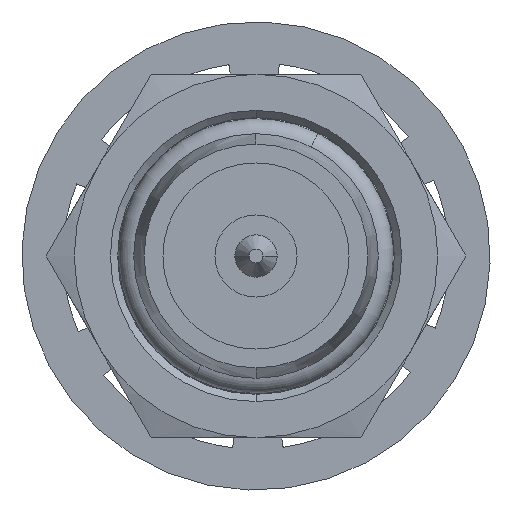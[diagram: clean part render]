
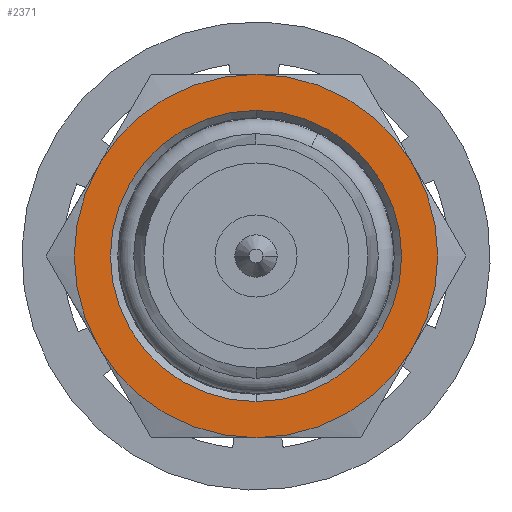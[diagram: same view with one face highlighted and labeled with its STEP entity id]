
A CAD part, left-side view. The second image highlights one B-rep face of the part: STEP entity #2371.
In plain terms, the highlighted planar face has unit normal (-1, 0, 0).
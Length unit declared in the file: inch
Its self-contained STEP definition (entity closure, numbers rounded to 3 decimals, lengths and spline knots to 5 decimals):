
#2 = CARTESIAN_POINT ( 'NONE',  ( 0.242, 0., 0. ) ) ;
#63 = EDGE_CURVE ( 'NONE', #2235, #6115, #4043, .T. ) ;
#86 = CARTESIAN_POINT ( 'NONE',  ( 0.242, 0., 0.156 ) ) ;
#108 = DIRECTION ( 'NONE',  ( 0., 0., 1. ) ) ;
#259 = VERTEX_POINT ( 'NONE', #5818 ) ;
#370 = CIRCLE ( 'NONE', #4271, 0.125 ) ;
#517 = DIRECTION ( 'NONE',  ( 0., 0., 1. ) ) ;
#533 = CARTESIAN_POINT ( 'NONE',  ( 0.242, 0., 0. ) ) ;
#587 = CARTESIAN_POINT ( 'NONE',  ( 0.242, -0.1351, -0.078 ) ) ;
#975 = AXIS2_PLACEMENT_3D ( 'NONE', #533, #4054, #1026 ) ;
#1026 = DIRECTION ( 'NONE',  ( 0., 0., 1. ) ) ;
#1036 = CIRCLE ( 'NONE', #975, 0.156 ) ;
#1208 = CARTESIAN_POINT ( 'NONE',  ( 0.242, 0., 0. ) ) ;
#1416 = CARTESIAN_POINT ( 'NONE',  ( 0.242, -0.18013, 0. ) ) ;
#1526 = ORIENTED_EDGE ( 'NONE', *, *, #5245, .T. ) ;
#1625 = CIRCLE ( 'NONE', #3148, 0.156 ) ;
#1704 = DIRECTION ( 'NONE',  ( 0., 0., 1. ) ) ;
#1720 = CIRCLE ( 'NONE', #3846, 0.156 ) ;
#1842 = VERTEX_POINT ( 'NONE', #2873 ) ;
#1922 = DIRECTION ( 'NONE',  ( 0., 0., 1. ) ) ;
#2235 = VERTEX_POINT ( 'NONE', #2428 ) ;
#2246 = CARTESIAN_POINT ( 'NONE',  ( 0.242, 0., -0.125 ) ) ;
#2371 = ADVANCED_FACE ( 'NONE', ( #4318, #5659 ), #2419, .T. ) ;
#2397 = CIRCLE ( 'NONE', #4557, 0.156 ) ;
#2419 = PLANE ( 'NONE',  #4488 ) ;
#2428 = CARTESIAN_POINT ( 'NONE',  ( 0.242, -0.1351, 0.078 ) ) ;
#2456 = DIRECTION ( 'NONE',  ( -1., 0., 0. ) ) ;
#2516 = CARTESIAN_POINT ( 'NONE',  ( 0.242, 0., 0. ) ) ;
#2518 = EDGE_CURVE ( 'NONE', #4303, #3636, #1036, .T. ) ;
#2636 = DIRECTION ( 'NONE',  ( -1., 0., 0. ) ) ;
#2855 = AXIS2_PLACEMENT_3D ( 'NONE', #5880, #2858, #6359 ) ;
#2858 = DIRECTION ( 'NONE',  ( -1., 0., 0. ) ) ;
#2873 = CARTESIAN_POINT ( 'NONE',  ( 0.242, 0.1351, -0.078 ) ) ;
#2996 = EDGE_CURVE ( 'NONE', #3345, #3925, #3207, .T. ) ;
#3108 = DIRECTION ( 'NONE',  ( -1., 0., 0. ) ) ;
#3148 = AXIS2_PLACEMENT_3D ( 'NONE', #6098, #3108, #108 ) ;
#3177 = DIRECTION ( 'NONE',  ( 1., 0., 0. ) ) ;
#3207 = CIRCLE ( 'NONE', #3648, 0.125 ) ;
#3345 = VERTEX_POINT ( 'NONE', #3954 ) ;
#3514 = DIRECTION ( 'NONE',  ( -1., 0., 0. ) ) ;
#3636 = VERTEX_POINT ( 'NONE', #587 ) ;
#3648 = AXIS2_PLACEMENT_3D ( 'NONE', #2516, #3177, #5996 ) ;
#3650 = EDGE_CURVE ( 'NONE', #1842, #4303, #1625, .T. ) ;
#3721 = CARTESIAN_POINT ( 'NONE',  ( 0.242, 0., -0.156 ) ) ;
#3846 = AXIS2_PLACEMENT_3D ( 'NONE', #5466, #2456, #5955 ) ;
#3907 = CIRCLE ( 'NONE', #2855, 0.156 ) ;
#3925 = VERTEX_POINT ( 'NONE', #2246 ) ;
#3954 = CARTESIAN_POINT ( 'NONE',  ( 0.242, 0., 0.125 ) ) ;
#4043 = CIRCLE ( 'NONE', #4165, 0.156 ) ;
#4054 = DIRECTION ( 'NONE',  ( -1., 0., 0. ) ) ;
#4165 = AXIS2_PLACEMENT_3D ( 'NONE', #5655, #2636, #6127 ) ;
#4271 = AXIS2_PLACEMENT_3D ( 'NONE', #1208, #4730, #1704 ) ;
#4303 = VERTEX_POINT ( 'NONE', #3721 ) ;
#4318 = FACE_BOUND ( 'NONE', #4915, .T. ) ;
#4456 = EDGE_CURVE ( 'NONE', #259, #1842, #3907, .T. ) ;
#4488 = AXIS2_PLACEMENT_3D ( 'NONE', #1416, #4944, #1922 ) ;
#4557 = AXIS2_PLACEMENT_3D ( 'NONE', #2, #3514, #517 ) ;
#4584 = EDGE_CURVE ( 'NONE', #6115, #259, #2397, .T. ) ;
#4709 = EDGE_LOOP ( 'NONE', ( #5387, #5107, #6353, #5008, #5986, #1526 ) ) ;
#4730 = DIRECTION ( 'NONE',  ( 1., 0., 0. ) ) ;
#4915 = EDGE_LOOP ( 'NONE', ( #5153, #5321 ) ) ;
#4944 = DIRECTION ( 'NONE',  ( -1., 0., 0. ) ) ;
#5008 = ORIENTED_EDGE ( 'NONE', *, *, #3650, .T. ) ;
#5107 = ORIENTED_EDGE ( 'NONE', *, *, #4584, .T. ) ;
#5153 = ORIENTED_EDGE ( 'NONE', *, *, #2996, .T. ) ;
#5245 = EDGE_CURVE ( 'NONE', #3636, #2235, #1720, .T. ) ;
#5321 = ORIENTED_EDGE ( 'NONE', *, *, #5646, .T. ) ;
#5387 = ORIENTED_EDGE ( 'NONE', *, *, #63, .T. ) ;
#5466 = CARTESIAN_POINT ( 'NONE',  ( 0.242, 0., 0. ) ) ;
#5646 = EDGE_CURVE ( 'NONE', #3925, #3345, #370, .T. ) ;
#5655 = CARTESIAN_POINT ( 'NONE',  ( 0.242, 0., 0. ) ) ;
#5659 = FACE_OUTER_BOUND ( 'NONE', #4709, .T. ) ;
#5818 = CARTESIAN_POINT ( 'NONE',  ( 0.242, 0.1351, 0.078 ) ) ;
#5880 = CARTESIAN_POINT ( 'NONE',  ( 0.242, 0., 0. ) ) ;
#5955 = DIRECTION ( 'NONE',  ( 0., 0., 1. ) ) ;
#5986 = ORIENTED_EDGE ( 'NONE', *, *, #2518, .T. ) ;
#5996 = DIRECTION ( 'NONE',  ( 0., 0., 1. ) ) ;
#6098 = CARTESIAN_POINT ( 'NONE',  ( 0.242, 0., 0. ) ) ;
#6115 = VERTEX_POINT ( 'NONE', #86 ) ;
#6127 = DIRECTION ( 'NONE',  ( 0., 0., 1. ) ) ;
#6353 = ORIENTED_EDGE ( 'NONE', *, *, #4456, .T. ) ;
#6359 = DIRECTION ( 'NONE',  ( 0., 0., 1. ) ) ;
